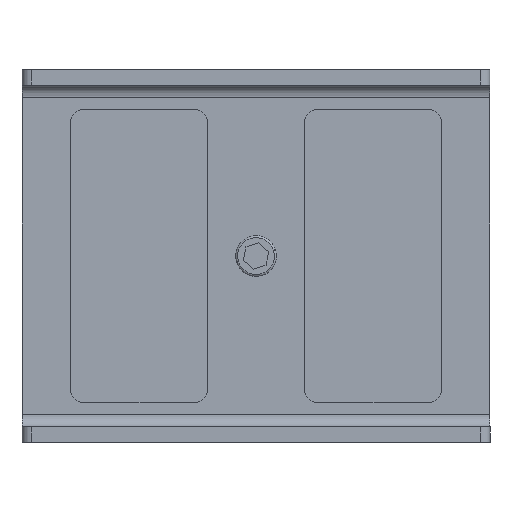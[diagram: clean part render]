
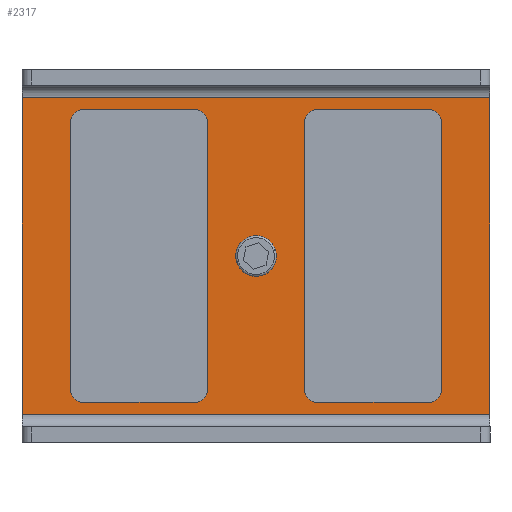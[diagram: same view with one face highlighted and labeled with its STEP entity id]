
A CAD part, top view. The second image highlights one B-rep face of the part: STEP entity #2317.
In plain terms, the highlighted planar face has unit normal (0, 0, 1).
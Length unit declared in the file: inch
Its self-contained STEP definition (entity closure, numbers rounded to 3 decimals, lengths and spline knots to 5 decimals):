
#60 = CARTESIAN_POINT ( 'NONE',  ( 1.5, -1.015, 0. ) ) ;
#112 = VERTEX_POINT ( 'NONE', #512 ) ;
#281 = DIRECTION ( 'NONE',  ( 0., 0., 1. ) ) ;
#299 = EDGE_CURVE ( 'NONE', #356, #2458, #706, .T. ) ;
#356 = VERTEX_POINT ( 'NONE', #897 ) ;
#512 = CARTESIAN_POINT ( 'NONE',  ( 1.5, 1.015, 0. ) ) ;
#574 = CARTESIAN_POINT ( 'NONE',  ( 1.5, -1.015, 0. ) ) ;
#605 = LINE ( 'NONE', #674, #812 ) ;
#608 = DIRECTION ( 'NONE',  ( 1., 0., 0. ) ) ;
#674 = CARTESIAN_POINT ( 'NONE',  ( -1.5, 1.015, 0. ) ) ;
#706 = CIRCLE ( 'NONE', #707, 0.0885 ) ;
#707 = AXIS2_PLACEMENT_3D ( 'NONE', #2343, #281, #2630 ) ;
#771 = AXIS2_PLACEMENT_3D ( 'NONE', #2552, #2850, #1083 ) ;
#801 = CARTESIAN_POINT ( 'NONE',  ( -1.5, 1.095, 0. ) ) ;
#812 = VECTOR ( 'NONE', #2734, 39.37008 ) ;
#897 = CARTESIAN_POINT ( 'NONE',  ( 0.0885, 0., 0. ) ) ;
#919 = ORIENTED_EDGE ( 'NONE', *, *, #2912, .F. ) ;
#1041 = CARTESIAN_POINT ( 'NONE',  ( 1.5, 1.095, 0. ) ) ;
#1071 = VERTEX_POINT ( 'NONE', #574 ) ;
#1083 = DIRECTION ( 'NONE',  ( 1., 0., 0. ) ) ;
#1084 = CIRCLE ( 'NONE', #771, 0.0885 ) ;
#1320 = EDGE_LOOP ( 'NONE', ( #919, #1779 ) ) ;
#1469 = AXIS2_PLACEMENT_3D ( 'NONE', #2080, #1510, #608 ) ;
#1497 = CARTESIAN_POINT ( 'NONE',  ( -1.5, 1.015, 0. ) ) ;
#1510 = DIRECTION ( 'NONE',  ( 0., 0., 1. ) ) ;
#1575 = EDGE_CURVE ( 'NONE', #2792, #112, #605, .T. ) ;
#1666 = LINE ( 'NONE', #1041, #3325 ) ;
#1738 = DIRECTION ( 'NONE',  ( 0., -1., 0. ) ) ;
#1779 = ORIENTED_EDGE ( 'NONE', *, *, #299, .F. ) ;
#1786 = PLANE ( 'NONE',  #1469 ) ;
#1932 = EDGE_CURVE ( 'NONE', #1071, #112, #1666, .T. ) ;
#2080 = CARTESIAN_POINT ( 'NONE',  ( 1.5, -1.095, 0. ) ) ;
#2105 = VERTEX_POINT ( 'NONE', #2106 ) ;
#2106 = CARTESIAN_POINT ( 'NONE',  ( -1.5, -1.015, 0. ) ) ;
#2317 = ADVANCED_FACE ( 'NONE', ( #3640, #2661 ), #1786, .T. ) ;
#2343 = CARTESIAN_POINT ( 'NONE',  ( 0., 0., 0. ) ) ;
#2458 = VERTEX_POINT ( 'NONE', #3751 ) ;
#2509 = ORIENTED_EDGE ( 'NONE', *, *, #3623, .T. ) ;
#2552 = CARTESIAN_POINT ( 'NONE',  ( 0., 0., 0. ) ) ;
#2553 = ORIENTED_EDGE ( 'NONE', *, *, #2731, .F. ) ;
#2565 = VECTOR ( 'NONE', #3561, 39.37008 ) ;
#2615 = ORIENTED_EDGE ( 'NONE', *, *, #1575, .F. ) ;
#2630 = DIRECTION ( 'NONE',  ( 1., 0., 0. ) ) ;
#2661 = FACE_OUTER_BOUND ( 'NONE', #3167, .T. ) ;
#2731 = EDGE_CURVE ( 'NONE', #1071, #2105, #3777, .T. ) ;
#2734 = DIRECTION ( 'NONE',  ( 1., 0., 0. ) ) ;
#2792 = VERTEX_POINT ( 'NONE', #1497 ) ;
#2850 = DIRECTION ( 'NONE',  ( 0., 0., 1. ) ) ;
#2883 = VECTOR ( 'NONE', #1738, 39.37008 ) ;
#2912 = EDGE_CURVE ( 'NONE', #2458, #356, #1084, .T. ) ;
#2932 = LINE ( 'NONE', #801, #2883 ) ;
#3074 = ORIENTED_EDGE ( 'NONE', *, *, #1932, .T. ) ;
#3098 = DIRECTION ( 'NONE',  ( 0., 1., 0. ) ) ;
#3167 = EDGE_LOOP ( 'NONE', ( #2509, #2553, #3074, #2615 ) ) ;
#3325 = VECTOR ( 'NONE', #3098, 39.37008 ) ;
#3561 = DIRECTION ( 'NONE',  ( -1., 0., 0. ) ) ;
#3623 = EDGE_CURVE ( 'NONE', #2792, #2105, #2932, .T. ) ;
#3640 = FACE_BOUND ( 'NONE', #1320, .T. ) ;
#3751 = CARTESIAN_POINT ( 'NONE',  ( -0.0885, 0., 0. ) ) ;
#3777 = LINE ( 'NONE', #60, #2565 ) ;
